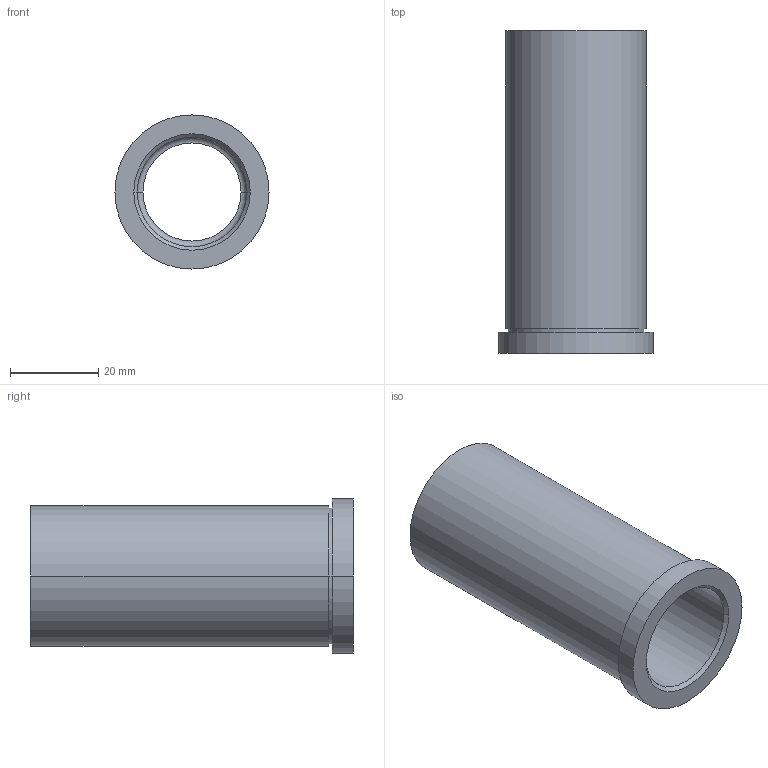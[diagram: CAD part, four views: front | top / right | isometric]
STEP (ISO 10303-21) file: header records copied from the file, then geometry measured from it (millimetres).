
FILE_DESCRIPTION (( 'STEP AP203' ), '1' );
FILE_NAME ('BU-204.step', '2014-02-27T03:05:00', ( '' ), ( '' ), 'SwSTEP 2.0', 'SolidWorks 2009', '' );
FILE_SCHEMA (( 'CONFIG_CONTROL_DESIGN' ));
Length unit declared in the file: inch
Products named in the file (1): BU-204
Bounding box: 34.92 x 73.03 x 34.92 mm (x, y, z)
Volume: 27536.2 mm3; surface area: 13777.2 mm2
Topology: 1 solids, 1 shells, 20 faces, 40 edges, 24 vertices
Faces by surface type: cylinder 10, torus 4, plane 4, cone 2
Entity records: 611 total; most frequent: DIRECTION 110, CARTESIAN_POINT 85, ORIENTED_EDGE 80, AXIS2_PLACEMENT_3D 49, EDGE_CURVE 40, CIRCLE 28, VERTEX_POINT 24, EDGE_LOOP 24
